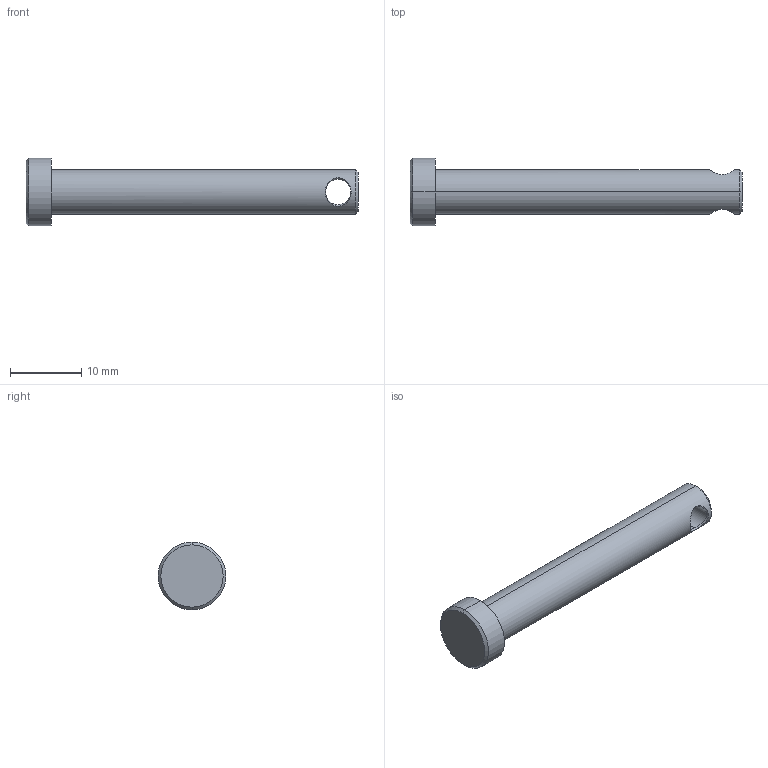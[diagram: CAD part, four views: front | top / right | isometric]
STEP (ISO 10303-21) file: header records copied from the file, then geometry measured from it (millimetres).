
FILE_DESCRIPTION (( 'STEP AP214' ), '1' );
FILE_NAME ('MMP LA3 Bracket Pinion.STEP', '2021-06-07T19:20:09', ( '' ), ( '' ), 'SwSTEP 2.0', 'SolidWorks 2017', '' );
FILE_SCHEMA (( 'AUTOMOTIVE_DESIGN' ));
Length unit declared in the file: inch
Products named in the file (1): MMP LA3 Bracket Pinion
Bounding box: 46.74 x 9.53 x 9.53 mm (x, y, z)
Volume: 1534.9 mm3; surface area: 1132 mm2
Topology: 1 solids, 1 shells, 17 faces, 36 edges, 22 vertices
Faces by surface type: cylinder 6, bspline 4, cone 4, plane 3
Entity records: 3446 total; most frequent: CARTESIAN_POINT 3064, ORIENTED_EDGE 72, DIRECTION 62, EDGE_CURVE 36, AXIS2_PLACEMENT_3D 26, VERTEX_POINT 22, EDGE_LOOP 20, ADVANCED_FACE 17
